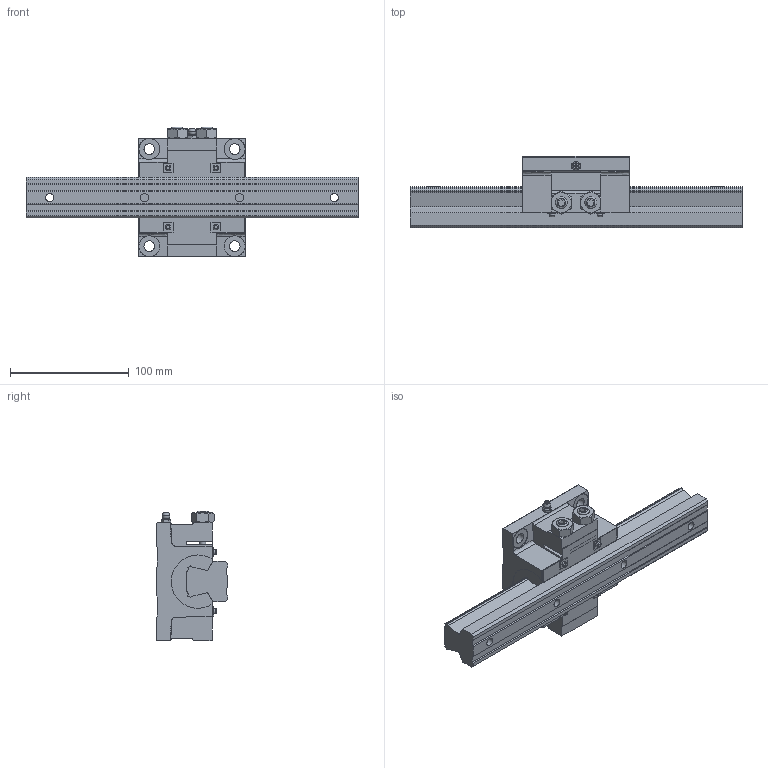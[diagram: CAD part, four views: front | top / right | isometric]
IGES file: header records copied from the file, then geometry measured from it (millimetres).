
Start section: Data from Parasolid IGES Translator 26.0.171, Copyright(c) 2006 Siemens PLM Software. All Rights Reserved.
Global section: file name: NSR30TBC1-280L_G20_0_A-M6F_95_0_0_0.igs; native system: By Siemens PLM Incorporated; preprocessor: XPlus GENERIC/IGES 26.0.171; author: Noname; organization: Noname; date: 20240521.121227; units: millimetre
Bounding box: 280 x 60 x 109.5 mm (x, y, z)
Surface area: 86279.5 mm2 (no closed solid volume)
Topology: 0 solids, 0 shells, 260 faces, 1373 edges, 1333 vertices
Faces by surface type: extrusion 161, revolution 99
